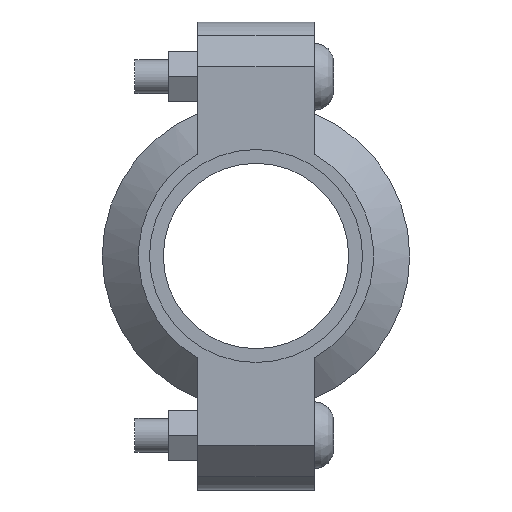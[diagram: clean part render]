
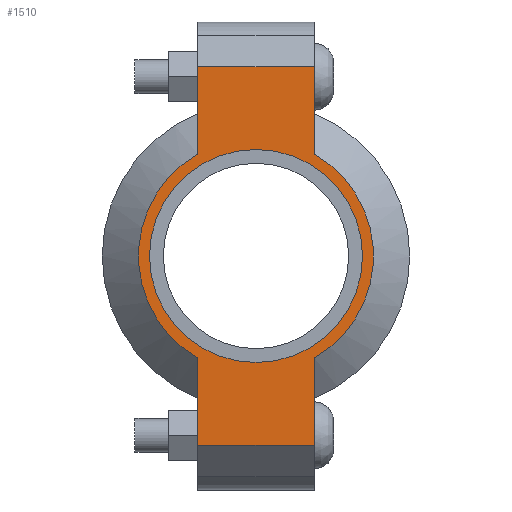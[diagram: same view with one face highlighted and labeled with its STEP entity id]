
A CAD part, left-side view. The second image highlights one B-rep face of the part: STEP entity #1510.
In plain terms, the highlighted planar face has unit normal (-1, 0, 0) as drawn and (0, 0, 1) by its records, which use the part's own axes.
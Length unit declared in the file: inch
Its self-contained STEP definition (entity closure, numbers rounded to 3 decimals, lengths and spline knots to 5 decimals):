
#134=LINE('',#2635,#227);
#142=LINE('',#2671,#235);
#149=LINE('',#2692,#242);
#158=LINE('',#2724,#251);
#159=LINE('',#2728,#252);
#160=LINE('',#2730,#253);
#227=VECTOR('',#2155,0.3937);
#235=VECTOR('',#2171,0.3937);
#242=VECTOR('',#2190,0.3937);
#251=VECTOR('',#2215,0.3937);
#252=VECTOR('',#2220,0.3937);
#253=VECTOR('',#2221,0.3937);
#309=FACE_BOUND('',#487,.T.);
#381=FACE_OUTER_BOUND('',#486,.T.);
#486=EDGE_LOOP('',(#1251,#1252,#1253,#1254,#1255,#1256,#1257,#1258));
#487=EDGE_LOOP('',(#1259));
#559=CIRCLE('',#1729,1.1875);
#585=CIRCLE('',#1788,1.31);
#586=CIRCLE('',#1789,1.31);
#651=VERTEX_POINT('',#2451);
#694=VERTEX_POINT('',#2632);
#695=VERTEX_POINT('',#2634);
#706=VERTEX_POINT('',#2666);
#707=VERTEX_POINT('',#2670);
#714=VERTEX_POINT('',#2689);
#715=VERTEX_POINT('',#2691);
#725=VERTEX_POINT('',#2727);
#726=VERTEX_POINT('',#2729);
#807=EDGE_CURVE('',#651,#651,#559,.T.);
#868=EDGE_CURVE('',#695,#694,#134,.T.);
#882=EDGE_CURVE('',#707,#706,#142,.T.);
#892=EDGE_CURVE('',#715,#714,#149,.T.);
#907=EDGE_CURVE('',#707,#694,#158,.T.);
#908=EDGE_CURVE('',#706,#715,#585,.T.);
#909=EDGE_CURVE('',#725,#714,#159,.T.);
#910=EDGE_CURVE('',#725,#726,#160,.T.);
#911=EDGE_CURVE('',#726,#695,#586,.T.);
#1251=ORIENTED_EDGE('',*,*,#907,.F.);
#1252=ORIENTED_EDGE('',*,*,#882,.T.);
#1253=ORIENTED_EDGE('',*,*,#908,.T.);
#1254=ORIENTED_EDGE('',*,*,#892,.T.);
#1255=ORIENTED_EDGE('',*,*,#909,.F.);
#1256=ORIENTED_EDGE('',*,*,#910,.T.);
#1257=ORIENTED_EDGE('',*,*,#911,.T.);
#1258=ORIENTED_EDGE('',*,*,#868,.T.);
#1259=ORIENTED_EDGE('',*,*,#807,.T.);
#1352=PLANE('',#1787);
#1510=ADVANCED_FACE('',(#381,#309),#1352,.T.);
#1729=AXIS2_PLACEMENT_3D('',#2453,#2031,#2032);
#1787=AXIS2_PLACEMENT_3D('',#2725,#2216,#2217);
#1788=AXIS2_PLACEMENT_3D('',#2726,#2218,#2219);
#1789=AXIS2_PLACEMENT_3D('',#2731,#2222,#2223);
#2031=DIRECTION('center_axis',(0.,0.,-1.));
#2032=DIRECTION('ref_axis',(-1.,0.,0.));
#2155=DIRECTION('',(-1.,0.,0.));
#2171=DIRECTION('',(1.,0.,0.));
#2190=DIRECTION('',(1.,0.,0.));
#2215=DIRECTION('',(0.,1.,0.));
#2216=DIRECTION('center_axis',(0.,0.,1.));
#2217=DIRECTION('ref_axis',(1.,0.,0.));
#2218=DIRECTION('center_axis',(0.,0.,1.));
#2219=DIRECTION('ref_axis',(-1.,0.,0.));
#2220=DIRECTION('',(0.,-1.,0.));
#2221=DIRECTION('',(-1.,0.,0.));
#2222=DIRECTION('center_axis',(0.,0.,1.));
#2223=DIRECTION('ref_axis',(-1.,0.,0.));
#2451=CARTESIAN_POINT('',(1.1875,0.,0.94));
#2453=CARTESIAN_POINT('Origin',(0.,0.,0.94));
#2632=CARTESIAN_POINT('',(-2.11,0.65,0.94));
#2634=CARTESIAN_POINT('',(-1.13737,0.65,0.94));
#2635=CARTESIAN_POINT('',(-2.61,0.65,0.94));
#2666=CARTESIAN_POINT('',(-1.13737,-0.65,0.94));
#2670=CARTESIAN_POINT('',(-2.11,-0.65,0.94));
#2671=CARTESIAN_POINT('',(2.61,-0.65,0.94));
#2689=CARTESIAN_POINT('',(2.11,-0.65,0.94));
#2691=CARTESIAN_POINT('',(1.13737,-0.65,0.94));
#2692=CARTESIAN_POINT('',(2.61,-0.65,0.94));
#2724=CARTESIAN_POINT('',(-2.11,0.325,0.94));
#2725=CARTESIAN_POINT('Origin',(0.,0.,0.94));
#2726=CARTESIAN_POINT('Origin',(0.,0.,0.94));
#2727=CARTESIAN_POINT('',(2.11,0.65,0.94));
#2728=CARTESIAN_POINT('',(2.11,-0.325,0.94));
#2729=CARTESIAN_POINT('',(1.13737,0.65,0.94));
#2730=CARTESIAN_POINT('',(-2.61,0.65,0.94));
#2731=CARTESIAN_POINT('Origin',(0.,0.,0.94));
